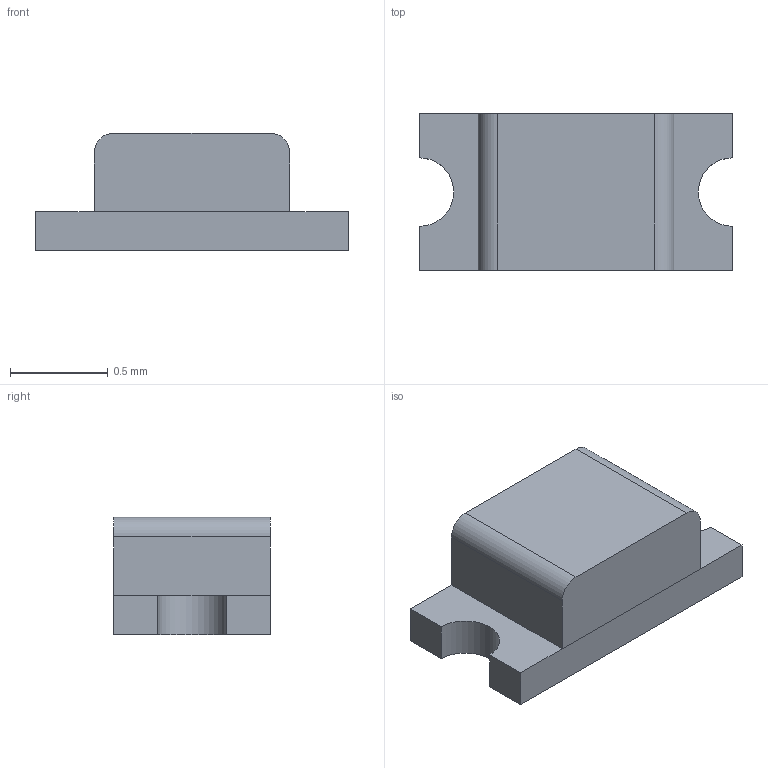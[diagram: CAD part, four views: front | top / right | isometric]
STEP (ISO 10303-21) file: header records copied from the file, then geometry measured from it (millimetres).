
FILE_DESCRIPTION (( 'STEP AP203' ), '1' );
FILE_NAME ('Red LED.stp.STEP', '2026-08-19T20:49:49', ( '' ), ( '' ), 'SwSTEP 2.0', 'SolidWorks 2024', '' );
FILE_SCHEMA (( 'CONFIG_CONTROL_DESIGN' ));
Length unit declared in the file: millimetre
Products named in the file (1): Red LED.stp
Bounding box: 1.6 x 0.8 x 0.6 mm (x, y, z)
Volume: 0.6 mm3; surface area: 4.8 mm2
Topology: 1 solids, 1 shells, 18 faces, 44 edges, 28 vertices
Faces by surface type: plane 14, cylinder 4
Entity records: 599 total; most frequent: CARTESIAN_POINT 91, DIRECTION 90, ORIENTED_EDGE 88, EDGE_CURVE 44, VECTOR 36, LINE 36, VERTEX_POINT 28, AXIS2_PLACEMENT_3D 27
